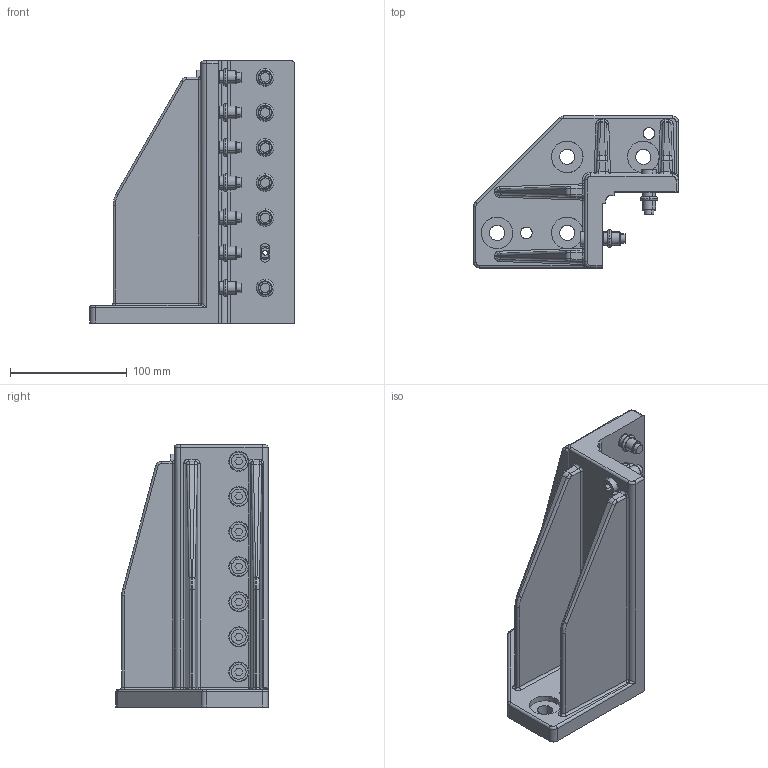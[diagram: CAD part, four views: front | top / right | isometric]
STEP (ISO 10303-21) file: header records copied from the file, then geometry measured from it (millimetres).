
FILE_DESCRIPTION(('STEP AP214'),'1');
FILE_NAME('EGT228_1708711_WINKEL_F_SENK_ANBINDUNG_SW80.CATPart.stp','2015-09-14T13:13:59',('3D-Tool'),(' '),'Spatial InterOp 3D',' ',' ');
FILE_SCHEMA(('automotive_design'));
Length unit declared in the file: millimetre
Products named in the file (15): EGT228_1708711_WINKEL_F_SENK_ANBINDUNG_SW80|5251925.1_Winkel f. Senkr. Anbind. 8kt.-Rohr SW80|5251925.1_Winkel f. Senkr. Anbind. 8kt.-Rohr SW80; EGT228_1708711_WINKEL_F_SENK_ANBINDUNG_SW80|5252162.1_Zentrierstift Vario-Handlingsystem|5252162.1_Zentrierstift Vario-Handlingsystem; EGT228_1708711_WINKEL_F_SENK_ANBINDUNG_SW80|zsb_schraube.1|zsb_schraube.1; EGT228_1708711_WINKEL_F_SENK_ANBINDUNG_SW80|zsb_schraube.2|zsb_schraube.2; EGT228_1708711_WINKEL_F_SENK_ANBINDUNG_SW80|zsb_schraube.3|zsb_schraube.3; EGT228_1708711_WINKEL_F_SENK_ANBINDUNG_SW80|zsb_schraube.4|zsb_schraube.4; EGT228_1708711_WINKEL_F_SENK_ANBINDUNG_SW80|zsb_schraube.5|zsb_schraube.5; EGT228_1708711_WINKEL_F_SENK_ANBINDUNG_SW80|zsb_schraube.6|zsb_schraube.6; EGT228_1708711_WINKEL_F_SENK_ANBINDUNG_SW80|zsb_schraube.7|zsb_schraube.7; EGT228_1708711_WINKEL_F_SENK_ANBINDUNG_SW80|zsb_schraube.8|zsb_schraube.8; EGT228_1708711_WINKEL_F_SENK_ANBINDUNG_SW80|zsb_schraube.9|zsb_schraube.9; EGT228_1708711_WINKEL_F_SENK_ANBINDUNG_SW80|zsb_schraube.10|zsb_schraube.10; EGT228_1708711_WINKEL_F_SENK_ANBINDUNG_SW80|zsb_schraube.11|zsb_schraube.11; EGT228_1708711_WINKEL_F_SENK_ANBINDUNG_SW80|zsb_schraube.12|zsb_schraube.12; EGT228_1708711_WINKEL_F_SENK_ANBINDUNG_SW80|zsb_schraube.13|zsb_schraube.13
Bounding box: 175 x 130 x 224 mm (x, y, z)
Volume: 997615.6 mm3; surface area: 213165.5 mm2
Topology: 15 solids, 15 shells, 782 faces, 1766 edges, 1098 vertices
Faces by surface type: cylinder 339, plane 257, cone 80, torus 70, bspline 28, sphere 8
Entity records: 30381 total; most frequent: CARTESIAN_POINT 10677, ORIENTED_EDGE 3512, EDGE_CURVE 1756, DIRECTION 1590, VERTEX_POINT 1098, B_SPLINE_CURVE_WITH_KNOTS 920, EDGE_LOOP 918, STYLED_ITEM 797
